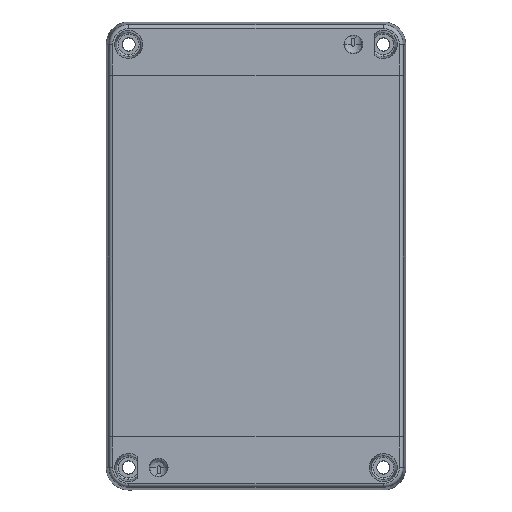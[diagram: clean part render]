
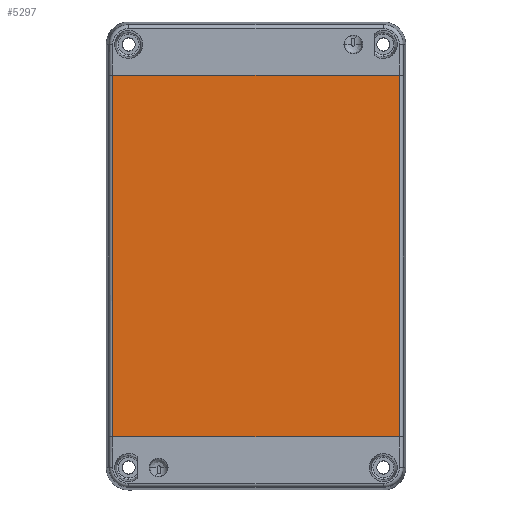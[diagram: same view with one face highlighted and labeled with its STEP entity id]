
A CAD part, front view. The second image highlights one B-rep face of the part: STEP entity #5297.
In plain terms, the highlighted planar face has unit normal (0, -1, 0).
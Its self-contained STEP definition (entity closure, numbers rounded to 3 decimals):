
#128 = VECTOR ( 'NONE', #7439, 1000. ) ;
#304 = EDGE_LOOP ( 'NONE', ( #6782, #7009, #2513, #2058 ) ) ;
#419 = CARTESIAN_POINT ( 'NONE',  ( -38.277, -20.5, 48.244 ) ) ;
#640 = VECTOR ( 'NONE', #7845, 1000. ) ;
#867 = CARTESIAN_POINT ( 'NONE',  ( -50., -20.5, 48.244 ) ) ;
#1548 = VERTEX_POINT ( 'NONE', #15753 ) ;
#1759 = PLANE ( 'NONE',  #4381 ) ;
#2058 = ORIENTED_EDGE ( 'NONE', *, *, #13831, .F. ) ;
#2513 = ORIENTED_EDGE ( 'NONE', *, *, #7779, .F. ) ;
#2526 = LINE ( 'NONE', #16837, #640 ) ;
#3021 = CARTESIAN_POINT ( 'NONE',  ( 38.277, -20.5, 48.244 ) ) ;
#4381 = AXIS2_PLACEMENT_3D ( 'NONE', #14879, #13600, #7102 ) ;
#5297 = ADVANCED_FACE ( 'NONE', ( #14791 ), #1759, .F. ) ;
#5576 = DIRECTION ( 'NONE',  ( 0., 0., 1. ) ) ;
#6774 = LINE ( 'NONE', #14391, #16891 ) ;
#6782 = ORIENTED_EDGE ( 'NONE', *, *, #7490, .F. ) ;
#7009 = ORIENTED_EDGE ( 'NONE', *, *, #14495, .F. ) ;
#7102 = DIRECTION ( 'NONE',  ( 0., 0., 1. ) ) ;
#7439 = DIRECTION ( 'NONE',  ( 0., 0., -1. ) ) ;
#7490 = EDGE_CURVE ( 'NONE', #10649, #1548, #2526, .T. ) ;
#7779 = EDGE_CURVE ( 'NONE', #10094, #9714, #14162, .T. ) ;
#7845 = DIRECTION ( 'NONE',  ( -1., 0., 0. ) ) ;
#8720 = LINE ( 'NONE', #10263, #128 ) ;
#9714 = VERTEX_POINT ( 'NONE', #3021 ) ;
#10094 = VERTEX_POINT ( 'NONE', #419 ) ;
#10263 = CARTESIAN_POINT ( 'NONE',  ( 38.277, -20.5, -48.244 ) ) ;
#10649 = VERTEX_POINT ( 'NONE', #16507 ) ;
#12888 = DIRECTION ( 'NONE',  ( 1., 0., 0. ) ) ;
#13600 = DIRECTION ( 'NONE',  ( 0., 1., 0. ) ) ;
#13831 = EDGE_CURVE ( 'NONE', #1548, #10094, #6774, .T. ) ;
#14162 = LINE ( 'NONE', #867, #16078 ) ;
#14391 = CARTESIAN_POINT ( 'NONE',  ( -38.277, -20.5, -48.244 ) ) ;
#14495 = EDGE_CURVE ( 'NONE', #9714, #10649, #8720, .T. ) ;
#14791 = FACE_OUTER_BOUND ( 'NONE', #304, .T. ) ;
#14879 = CARTESIAN_POINT ( 'NONE',  ( -50., -20.5, -48.244 ) ) ;
#15753 = CARTESIAN_POINT ( 'NONE',  ( -38.277, -20.5, -48.244 ) ) ;
#16078 = VECTOR ( 'NONE', #12888, 1000. ) ;
#16507 = CARTESIAN_POINT ( 'NONE',  ( 38.277, -20.5, -48.244 ) ) ;
#16837 = CARTESIAN_POINT ( 'NONE',  ( -50., -20.5, -48.244 ) ) ;
#16891 = VECTOR ( 'NONE', #5576, 1000. ) ;
